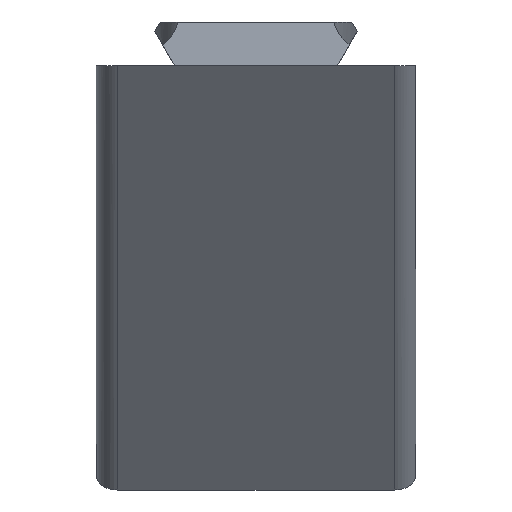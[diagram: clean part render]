
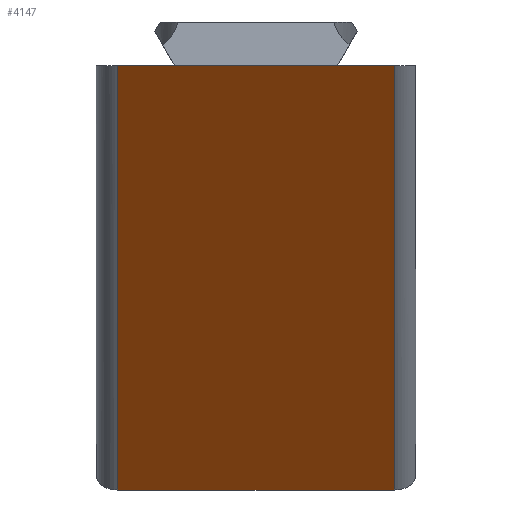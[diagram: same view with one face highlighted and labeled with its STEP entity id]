
A CAD part, left-side view. The second image highlights one B-rep face of the part: STEP entity #4147.
In plain terms, the highlighted planar face has unit normal (-0.755, 0, -0.656).
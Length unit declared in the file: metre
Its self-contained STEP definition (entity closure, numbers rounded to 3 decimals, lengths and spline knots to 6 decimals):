
#500=ORIENTED_EDGE('',*,*,#1530,.T.);
#501=ORIENTED_EDGE('',*,*,#1703,.T.);
#502=ORIENTED_EDGE('',*,*,#1484,.F.);
#503=ORIENTED_EDGE('',*,*,#1704,.T.);
#504=ORIENTED_EDGE('',*,*,#1546,.T.);
#505=ORIENTED_EDGE('',*,*,#1698,.T.);
#1484=EDGE_CURVE('',#2101,#2102,#2512,.T.);
#1530=EDGE_CURVE('',#2148,#2147,#2535,.T.);
#1546=EDGE_CURVE('',#2164,#2163,#2545,.T.);
#1698=EDGE_CURVE('',#2163,#2148,#2653,.T.);
#1703=EDGE_CURVE('',#2147,#2102,#2654,.T.);
#1704=EDGE_CURVE('',#2101,#2164,#2655,.F.);
#2101=VERTEX_POINT('',#5746);
#2102=VERTEX_POINT('',#5748);
#2147=VERTEX_POINT('',#5842);
#2148=VERTEX_POINT('',#5844);
#2163=VERTEX_POINT('',#5874);
#2164=VERTEX_POINT('',#5876);
#2512=LINE('',#5747,#2973);
#2535=LINE('',#5843,#2996);
#2545=LINE('',#5875,#3006);
#2653=LINE('',#6227,#3114);
#2654=LINE('',#6238,#3115);
#2655=LINE('',#6239,#3116);
#2973=VECTOR('',#4686,1.);
#2996=VECTOR('',#4763,1.);
#3006=VECTOR('',#4785,1.);
#3114=VECTOR('',#4955,1.);
#3115=VECTOR('',#4972,1.);
#3116=VECTOR('',#4973,1.);
#3473=EDGE_LOOP('',(#500,#501,#502,#503,#504,#505));
#3742=FACE_BOUND('',#3473,.T.);
#3984=PLANE('',#4447);
#4147=ADVANCED_FACE('',(#3742),#3984,.F.);
#4447=AXIS2_PLACEMENT_3D('',#6237,#4970,#4971);
#4686=DIRECTION('',(0.,1.,0.));
#4763=DIRECTION('',(0.,1.,0.));
#4785=DIRECTION('',(0.,1.,0.));
#4955=DIRECTION('',(0.,1.,0.));
#4970=DIRECTION('',(0.755,0.,0.656));
#4971=DIRECTION('',(0.656,0.,-0.755));
#4972=DIRECTION('',(0.656,0.,-0.755));
#4973=DIRECTION('',(0.656,0.,-0.755));
#5746=CARTESIAN_POINT('',(0.034647,-0.013,-0.039857));
#5747=CARTESIAN_POINT('',(0.034647,-0.015,-0.039857));
#5748=CARTESIAN_POINT('',(0.034647,0.013,-0.039857));
#5842=CARTESIAN_POINT('',(0.,0.013,0.));
#5843=CARTESIAN_POINT('',(0.,-0.015,0.));
#5844=CARTESIAN_POINT('',(0.,0.007695,0.));
#5874=CARTESIAN_POINT('',(0.,-0.007695,0.));
#5875=CARTESIAN_POINT('',(0.,-0.015,0.));
#5876=CARTESIAN_POINT('',(0.,-0.013,0.));
#6227=CARTESIAN_POINT('',(0.,0.,0.));
#6237=CARTESIAN_POINT('',(0.017323,-0.015,-0.019928));
#6238=CARTESIAN_POINT('',(0.017323,0.013,-0.019928));
#6239=CARTESIAN_POINT('',(0.,-0.013,0.));
